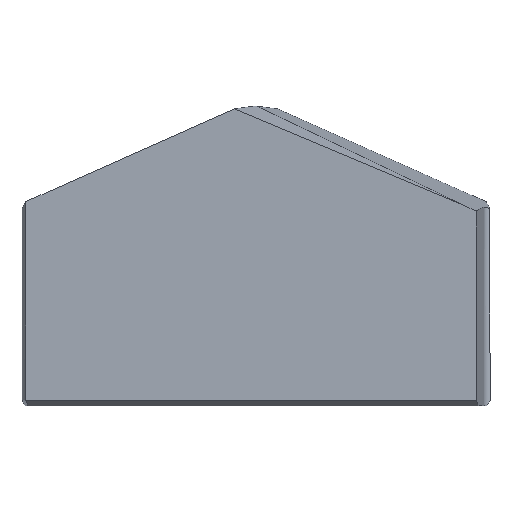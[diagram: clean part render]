
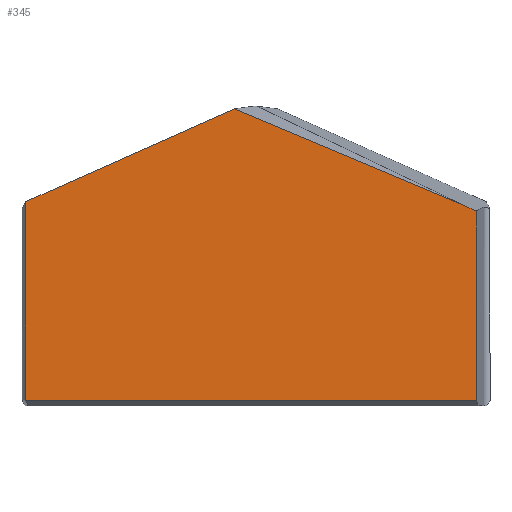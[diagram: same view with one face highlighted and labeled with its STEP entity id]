
A CAD part, top view. The second image highlights one B-rep face of the part: STEP entity #345.
In plain terms, the highlighted planar face has unit normal (0, 0, 1).
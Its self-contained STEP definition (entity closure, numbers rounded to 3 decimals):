
#2 = CARTESIAN_POINT ( 'NONE',  ( -12.465, 0.289, 4.8 ) ) ;
#21 = FACE_OUTER_BOUND ( 'NONE', #255, .T. ) ;
#33 = VECTOR ( 'NONE', #313, 1000. ) ;
#52 = LINE ( 'NONE', #200, #187 ) ;
#58 = CARTESIAN_POINT ( 'NONE',  ( 11.95, 0.289, 4.8 ) ) ;
#60 = EDGE_CURVE ( 'NONE', #326, #136, #219, .T. ) ;
#77 = VERTEX_POINT ( 'NONE', #131 ) ;
#93 = ORIENTED_EDGE ( 'NONE', *, *, #562, .T. ) ;
#100 = LINE ( 'NONE', #184, #112 ) ;
#103 = CARTESIAN_POINT ( 'NONE',  ( -1.17, 16.099, 4.8 ) ) ;
#108 = DIRECTION ( 'NONE',  ( 1., 0., 0. ) ) ;
#112 = VECTOR ( 'NONE', #108, 1000. ) ;
#118 = VECTOR ( 'NONE', #138, 1000. ) ;
#119 = ORIENTED_EDGE ( 'NONE', *, *, #557, .T. ) ;
#123 = LINE ( 'NONE', #561, #563 ) ;
#131 = CARTESIAN_POINT ( 'NONE',  ( 11.253, 10.871, 4.8 ) ) ;
#136 = VERTEX_POINT ( 'NONE', #265 ) ;
#138 = DIRECTION ( 'NONE',  ( 0., 1., 0. ) ) ;
#166 = EDGE_CURVE ( 'NONE', #292, #210, #473, .T. ) ;
#170 = CARTESIAN_POINT ( 'NONE',  ( -12.467, 0.292, 4.8 ) ) ;
#182 = CARTESIAN_POINT ( 'NONE',  ( 11.95, 10.561, 4.8 ) ) ;
#184 = CARTESIAN_POINT ( 'NONE',  ( 12.295, 0.289, 4.8 ) ) ;
#187 = VECTOR ( 'NONE', #240, 1000. ) ;
#192 = CARTESIAN_POINT ( 'NONE',  ( -12.471, 11.067, 4.8 ) ) ;
#200 = CARTESIAN_POINT ( 'NONE',  ( 5.58, 13.259, 4.8 ) ) ;
#204 = ORIENTED_EDGE ( 'NONE', *, *, #166, .T. ) ;
#205 = ORIENTED_EDGE ( 'NONE', *, *, #300, .T. ) ;
#208 = EDGE_CURVE ( 'NONE', #326, #324, #280, .T. ) ;
#210 = VERTEX_POINT ( 'NONE', #182 ) ;
#219 = B_SPLINE_CURVE_WITH_KNOTS ( 'NONE', 3,
 ( #495, #224, #170, #2 ),
 .UNSPECIFIED., .F., .F.,
 ( 4, 4 ),
 ( 0., 0. ),
 .UNSPECIFIED. ) ;
#224 = CARTESIAN_POINT ( 'NONE',  ( -12.469, 0.296, 4.8 ) ) ;
#233 = CARTESIAN_POINT ( 'NONE',  ( -12.471, 0., 4.8 ) ) ;
#236 = DIRECTION ( 'NONE',  ( 0., 0., 1. ) ) ;
#240 = DIRECTION ( 'NONE',  ( -0.922, 0.388, 0. ) ) ;
#242 = CARTESIAN_POINT ( 'NONE',  ( -12.471, 0.3, 4.8 ) ) ;
#255 = EDGE_LOOP ( 'NONE', ( #399, #93, #119, #422, #388, #205, #204 ) ) ;
#265 = CARTESIAN_POINT ( 'NONE',  ( -12.465, 0.289, 4.8 ) ) ;
#280 = LINE ( 'NONE', #233, #118 ) ;
#285 = DIRECTION ( 'NONE',  ( -0.914, 0.407, 0. ) ) ;
#291 = CARTESIAN_POINT ( 'NONE',  ( 0., 16.62, 4.8 ) ) ;
#292 = VERTEX_POINT ( 'NONE', #58 ) ;
#295 = VERTEX_POINT ( 'NONE', #103 ) ;
#300 = EDGE_CURVE ( 'NONE', #136, #292, #100, .T. ) ;
#305 = LINE ( 'NONE', #291, #519 ) ;
#313 = DIRECTION ( 'NONE',  ( 0., 1., 0. ) ) ;
#324 = VERTEX_POINT ( 'NONE', #192 ) ;
#326 = VERTEX_POINT ( 'NONE', #242 ) ;
#329 = CARTESIAN_POINT ( 'NONE',  ( 0., 0., 4.8 ) ) ;
#335 = PLANE ( 'NONE',  #567 ) ;
#345 = ADVANCED_FACE ( 'NONE', ( #21 ), #335, .T. ) ;
#379 = DIRECTION ( 'NONE',  ( -0.914, -0.407, 0. ) ) ;
#388 = ORIENTED_EDGE ( 'NONE', *, *, #60, .T. ) ;
#396 = CARTESIAN_POINT ( 'NONE',  ( 11.95, 0., 4.8 ) ) ;
#399 = ORIENTED_EDGE ( 'NONE', *, *, #406, .T. ) ;
#406 = EDGE_CURVE ( 'NONE', #210, #77, #123, .T. ) ;
#422 = ORIENTED_EDGE ( 'NONE', *, *, #208, .F. ) ;
#473 = LINE ( 'NONE', #396, #33 ) ;
#495 = CARTESIAN_POINT ( 'NONE',  ( -12.471, 0.3, 4.8 ) ) ;
#519 = VECTOR ( 'NONE', #379, 1000. ) ;
#548 = DIRECTION ( 'NONE',  ( 1., 0., 0. ) ) ;
#557 = EDGE_CURVE ( 'NONE', #295, #324, #305, .T. ) ;
#561 = CARTESIAN_POINT ( 'NONE',  ( 5.901, 13.254, 4.8 ) ) ;
#562 = EDGE_CURVE ( 'NONE', #77, #295, #52, .T. ) ;
#563 = VECTOR ( 'NONE', #285, 1000. ) ;
#567 = AXIS2_PLACEMENT_3D ( 'NONE', #329, #236, #548 ) ;
